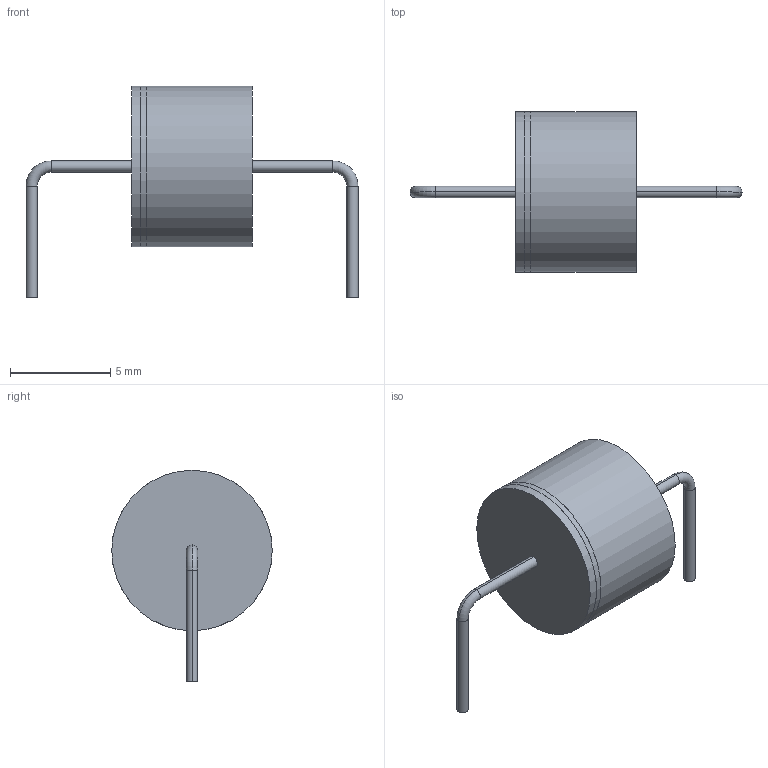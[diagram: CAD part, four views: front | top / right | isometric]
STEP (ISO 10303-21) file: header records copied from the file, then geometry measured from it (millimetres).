
FILE_DESCRIPTION(('STEP AP214'),'1');
FILE_NAME('CG32_0L-04_LTF','2024-02-24T08:31:48',(''),(''),'','','');
FILE_SCHEMA(('AUTOMOTIVE_DESIGN'));
Length unit declared in the file: millimetre
Products named in the file (1): product
Bounding box: 16.56 x 8.01 x 10.54 mm (x, y, z)
Volume: 306.8 mm3; surface area: 306.5 mm2
Topology: 4 solids, 4 shells, 23 faces, 41 edges, 26 vertices
Faces by surface type: cylinder 11, plane 8, torus 4
Full cylindrical faces by diameter (mm): 8.001 x2, 8.006 x1
Entity records: 727 total; most frequent: DIRECTION 118, ORIENTED_EDGE 76, CARTESIAN_POINT 65, AXIS2_PLACEMENT_3D 55, EDGE_CURVE 38, CIRCLE 30, EDGE_LOOP 28, VERTEX_POINT 26
